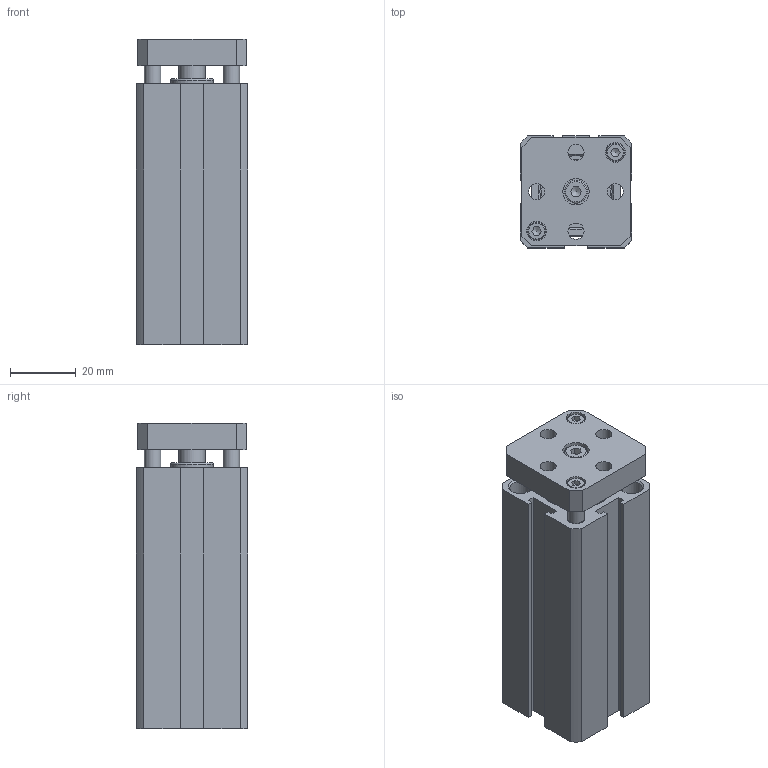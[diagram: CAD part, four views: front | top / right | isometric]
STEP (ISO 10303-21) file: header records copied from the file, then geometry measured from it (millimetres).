
FILE_DESCRIPTION((''),'2;1');
FILE_NAME('I:\3D電子目錄\氣缸\JTD\JTD\JTD20\JTD20x60.stp','2007-08-09T19:40:25',('Administrator'),(''),'Autodesk Inventor 11','Autodesk Inventor 11','');
FILE_SCHEMA(('AUTOMOTIVE_DESIGN { 1 0 10303 214 1 1 1 1 }'));
Length unit declared in the file: millimetre
Products named in the file (5): JTD20; R 形環 23; ISO 4762 M4 x 10; ISO 4762 M3 x 8
Assembly tree (6 placements, depth 2):
  JTD20
    JTD20
    R 形環 23  x2
    ISO 4762 M4 x 10
    ISO 4762 M3 x 8  x2
Bounding box: 34 x 34 x 93 mm (x, y, z)
Volume: 81348.2 mm3; surface area: 28516.3 mm2
Topology: 6 solids, 6 shells, 185 faces, 420 edges, 275 vertices
Faces by surface type: plane 99, cylinder 51, bspline 16, cone 14, torus 5
Full cylindrical faces by diameter (mm): 1.5 x6, 3 x2, 4 x1, 4.3 x2, 4.576 x2, 5 x2, 5.5 x4, 6.5 x4, 7 x1, 8 x1, 13 x2, 22 x4, 23.2 x2
Entity records: 4480 total; most frequent: CARTESIAN_POINT 974, DIRECTION 708, ORIENTED_EDGE 592, EDGE_CURVE 296, AXIS2_PLACEMENT_3D 270, EDGE_LOOP 262, VERTEX_POINT 228, VECTOR 168
